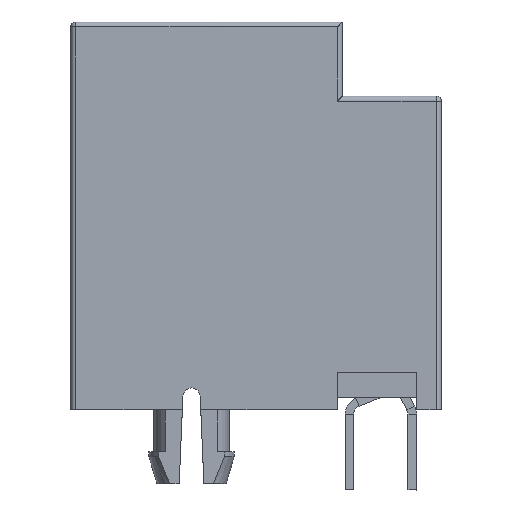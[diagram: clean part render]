
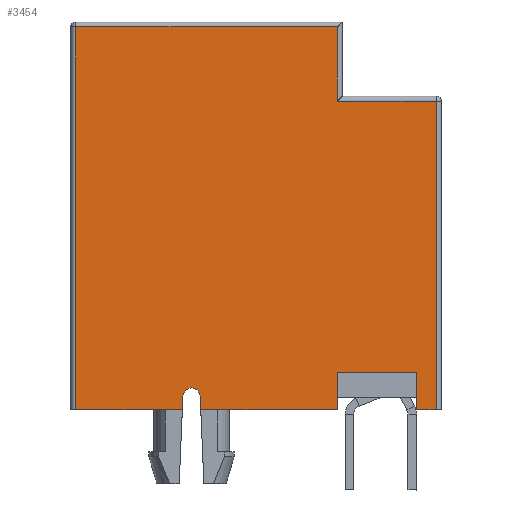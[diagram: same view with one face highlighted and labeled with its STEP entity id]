
A CAD part, left-side view. The second image highlights one B-rep face of the part: STEP entity #3454.
In plain terms, the highlighted planar face has unit normal (-1, 0, 0).
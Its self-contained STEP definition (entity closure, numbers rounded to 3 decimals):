
#51 = VECTOR ( 'NONE', #4590, 1000. ) ;
#169 = AXIS2_PLACEMENT_3D ( 'NONE', #1329, #3610, #7208 ) ;
#385 = DIRECTION ( 'NONE',  ( 0., -0.042, 0.999 ) ) ;
#389 = CARTESIAN_POINT ( 'NONE',  ( -59.916, 36.462, -6.35 ) ) ;
#484 = CARTESIAN_POINT ( 'NONE',  ( -59.916, 22.662, -6.35 ) ) ;
#565 = CARTESIAN_POINT ( 'NONE',  ( -59.916, 36.662, 9.15 ) ) ;
#594 = CARTESIAN_POINT ( 'NONE',  ( -59.916, 31.272, -9.35 ) ) ;
#647 = LINE ( 'NONE', #2446, #5338 ) ;
#735 = ORIENTED_EDGE ( 'NONE', *, *, #9330, .T. ) ;
#929 = VECTOR ( 'NONE', #4909, 1000. ) ;
#934 = VECTOR ( 'NONE', #9064, 1000. ) ;
#1037 = VECTOR ( 'NONE', #8133, 1000. ) ;
#1057 = ORIENTED_EDGE ( 'NONE', *, *, #6764, .F. ) ;
#1117 = DIRECTION ( 'NONE',  ( 0., 1., 0. ) ) ;
#1203 = ORIENTED_EDGE ( 'NONE', *, *, #9101, .F. ) ;
#1237 = VERTEX_POINT ( 'NONE', #5097 ) ;
#1295 = EDGE_CURVE ( 'NONE', #4480, #4831, #2958, .T. ) ;
#1329 = CARTESIAN_POINT ( 'NONE',  ( -59.916, 31.772, -5.82 ) ) ;
#1443 = VECTOR ( 'NONE', #6855, 1000. ) ;
#1449 = VECTOR ( 'NONE', #385, 1000. ) ;
#1566 = CARTESIAN_POINT ( 'NONE',  ( -59.916, 36.462, -6.35 ) ) ;
#1904 = CARTESIAN_POINT ( 'NONE',  ( -59.916, 36.662, -6.35 ) ) ;
#2001 = EDGE_CURVE ( 'NONE', #7994, #8021, #647, .T. ) ;
#2031 = VECTOR ( 'NONE', #2772, 1000. ) ;
#2247 = LINE ( 'NONE', #3056, #1037 ) ;
#2446 = CARTESIAN_POINT ( 'NONE',  ( -59.916, 25.862, -7.808 ) ) ;
#2513 = VERTEX_POINT ( 'NONE', #8883 ) ;
#2670 = ORIENTED_EDGE ( 'NONE', *, *, #6205, .F. ) ;
#2704 = LINE ( 'NONE', #3144, #8558 ) ;
#2739 = CARTESIAN_POINT ( 'NONE',  ( -59.916, 21.862, -6.35 ) ) ;
#2770 = CARTESIAN_POINT ( 'NONE',  ( -59.916, 36.662, -6.35 ) ) ;
#2772 = DIRECTION ( 'NONE',  ( 0., 0., -1. ) ) ;
#2793 = LINE ( 'NONE', #1904, #5042 ) ;
#2878 = DIRECTION ( 'NONE',  ( 0., 1., 0. ) ) ;
#2958 = LINE ( 'NONE', #389, #51 ) ;
#2972 = PLANE ( 'NONE',  #7761 ) ;
#2996 = VERTEX_POINT ( 'NONE', #6651 ) ;
#3010 = CARTESIAN_POINT ( 'NONE',  ( -59.916, 25.862, 6.15 ) ) ;
#3056 = CARTESIAN_POINT ( 'NONE',  ( -59.916, 25.862, -4.85 ) ) ;
#3144 = CARTESIAN_POINT ( 'NONE',  ( -59.916, 25.862, 6.35 ) ) ;
#3175 = DIRECTION ( 'NONE',  ( 0., 0., -1. ) ) ;
#3434 = EDGE_LOOP ( 'NONE', ( #6271, #3935, #7835, #5544, #1203, #6528, #7857, #1057, #4215, #735, #3522, #2670, #5014, #4806 ) ) ;
#3454 = ADVANCED_FACE ( 'NONE', ( #3611 ), #2972, .T. ) ;
#3462 = CARTESIAN_POINT ( 'NONE',  ( -59.916, 25.862, -4.85 ) ) ;
#3492 = CARTESIAN_POINT ( 'NONE',  ( -59.916, 25.862, -6.35 ) ) ;
#3522 = ORIENTED_EDGE ( 'NONE', *, *, #6263, .T. ) ;
#3610 = DIRECTION ( 'NONE',  ( 1., 0., 0. ) ) ;
#3611 = FACE_OUTER_BOUND ( 'NONE', #3434, .T. ) ;
#3896 = CARTESIAN_POINT ( 'NONE',  ( -59.916, 25.862, 9.15 ) ) ;
#3935 = ORIENTED_EDGE ( 'NONE', *, *, #5287, .F. ) ;
#4013 = EDGE_CURVE ( 'NONE', #4253, #4871, #6649, .T. ) ;
#4109 = CARTESIAN_POINT ( 'NONE',  ( -59.916, 36.662, -6.35 ) ) ;
#4215 = ORIENTED_EDGE ( 'NONE', *, *, #5094, .T. ) ;
#4253 = VERTEX_POINT ( 'NONE', #8700 ) ;
#4259 = LINE ( 'NONE', #8010, #8542 ) ;
#4476 = EDGE_CURVE ( 'NONE', #8021, #4253, #2247, .T. ) ;
#4480 = VERTEX_POINT ( 'NONE', #1566 ) ;
#4590 = DIRECTION ( 'NONE',  ( 0., 0., 1. ) ) ;
#4721 = VERTEX_POINT ( 'NONE', #7098 ) ;
#4806 = ORIENTED_EDGE ( 'NONE', *, *, #4476, .T. ) ;
#4831 = VERTEX_POINT ( 'NONE', #5826 ) ;
#4871 = VERTEX_POINT ( 'NONE', #7905 ) ;
#4909 = DIRECTION ( 'NONE',  ( 0., -1., 0. ) ) ;
#5014 = ORIENTED_EDGE ( 'NONE', *, *, #2001, .T. ) ;
#5042 = VECTOR ( 'NONE', #1117, 1000. ) ;
#5094 = EDGE_CURVE ( 'NONE', #2513, #7293, #9127, .T. ) ;
#5097 = CARTESIAN_POINT ( 'NONE',  ( -59.916, 21.862, 6.15 ) ) ;
#5133 = LINE ( 'NONE', #8365, #1443 ) ;
#5287 = EDGE_CURVE ( 'NONE', #6699, #4871, #4259, .T. ) ;
#5338 = VECTOR ( 'NONE', #7479, 1000. ) ;
#5364 = LINE ( 'NONE', #594, #5823 ) ;
#5423 = DIRECTION ( 'NONE',  ( 0., -0.042, -0.999 ) ) ;
#5424 = DIRECTION ( 'NONE',  ( 0., 1., 0. ) ) ;
#5544 = ORIENTED_EDGE ( 'NONE', *, *, #6224, .F. ) ;
#5823 = VECTOR ( 'NONE', #5423, 1000. ) ;
#5826 = CARTESIAN_POINT ( 'NONE',  ( -59.916, 36.462, 9.15 ) ) ;
#5859 = LINE ( 'NONE', #2739, #2031 ) ;
#6205 = EDGE_CURVE ( 'NONE', #7994, #2996, #2793, .T. ) ;
#6224 = EDGE_CURVE ( 'NONE', #6504, #1237, #5133, .T. ) ;
#6259 = LINE ( 'NONE', #4109, #8638 ) ;
#6263 = EDGE_CURVE ( 'NONE', #4721, #2996, #5364, .T. ) ;
#6271 = ORIENTED_EDGE ( 'NONE', *, *, #4013, .T. ) ;
#6337 = CARTESIAN_POINT ( 'NONE',  ( -59.916, 32.122, -5.805 ) ) ;
#6504 = VERTEX_POINT ( 'NONE', #3010 ) ;
#6528 = ORIENTED_EDGE ( 'NONE', *, *, #8958, .F. ) ;
#6649 = LINE ( 'NONE', #484, #934 ) ;
#6651 = CARTESIAN_POINT ( 'NONE',  ( -59.916, 31.399, -6.35 ) ) ;
#6699 = VERTEX_POINT ( 'NONE', #8423 ) ;
#6764 = EDGE_CURVE ( 'NONE', #2513, #4480, #6259, .T. ) ;
#6855 = DIRECTION ( 'NONE',  ( 0., -1., 0. ) ) ;
#6979 = DIRECTION ( 'NONE',  ( 0., 0., -1. ) ) ;
#7098 = CARTESIAN_POINT ( 'NONE',  ( -59.916, 31.422, -5.805 ) ) ;
#7208 = DIRECTION ( 'NONE',  ( 0., 0., -1. ) ) ;
#7293 = VERTEX_POINT ( 'NONE', #6337 ) ;
#7479 = DIRECTION ( 'NONE',  ( 0., 0., 1. ) ) ;
#7728 = VERTEX_POINT ( 'NONE', #3896 ) ;
#7761 = AXIS2_PLACEMENT_3D ( 'NONE', #2770, #8479, #6979 ) ;
#7835 = ORIENTED_EDGE ( 'NONE', *, *, #9030, .F. ) ;
#7857 = ORIENTED_EDGE ( 'NONE', *, *, #1295, .F. ) ;
#7905 = CARTESIAN_POINT ( 'NONE',  ( -59.916, 22.662, -6.35 ) ) ;
#7994 = VERTEX_POINT ( 'NONE', #3492 ) ;
#8010 = CARTESIAN_POINT ( 'NONE',  ( -59.916, 36.662, -6.35 ) ) ;
#8021 = VERTEX_POINT ( 'NONE', #3462 ) ;
#8095 = LINE ( 'NONE', #565, #929 ) ;
#8133 = DIRECTION ( 'NONE',  ( 0., -1., 0. ) ) ;
#8329 = CIRCLE ( 'NONE', #169, 0.35 ) ;
#8365 = CARTESIAN_POINT ( 'NONE',  ( -59.916, 36.662, 6.15 ) ) ;
#8423 = CARTESIAN_POINT ( 'NONE',  ( -59.916, 21.862, -6.35 ) ) ;
#8479 = DIRECTION ( 'NONE',  ( -1., 0., 0. ) ) ;
#8542 = VECTOR ( 'NONE', #2878, 1000. ) ;
#8558 = VECTOR ( 'NONE', #3175, 1000. ) ;
#8638 = VECTOR ( 'NONE', #5424, 1000. ) ;
#8700 = CARTESIAN_POINT ( 'NONE',  ( -59.916, 22.662, -4.85 ) ) ;
#8883 = CARTESIAN_POINT ( 'NONE',  ( -59.916, 32.145, -6.35 ) ) ;
#8958 = EDGE_CURVE ( 'NONE', #4831, #7728, #8095, .T. ) ;
#9025 = CARTESIAN_POINT ( 'NONE',  ( -59.916, 32.122, -5.805 ) ) ;
#9030 = EDGE_CURVE ( 'NONE', #1237, #6699, #5859, .T. ) ;
#9064 = DIRECTION ( 'NONE',  ( 0., 0., -1. ) ) ;
#9101 = EDGE_CURVE ( 'NONE', #7728, #6504, #2704, .T. ) ;
#9127 = LINE ( 'NONE', #9025, #1449 ) ;
#9330 = EDGE_CURVE ( 'NONE', #7293, #4721, #8329, .T. ) ;
